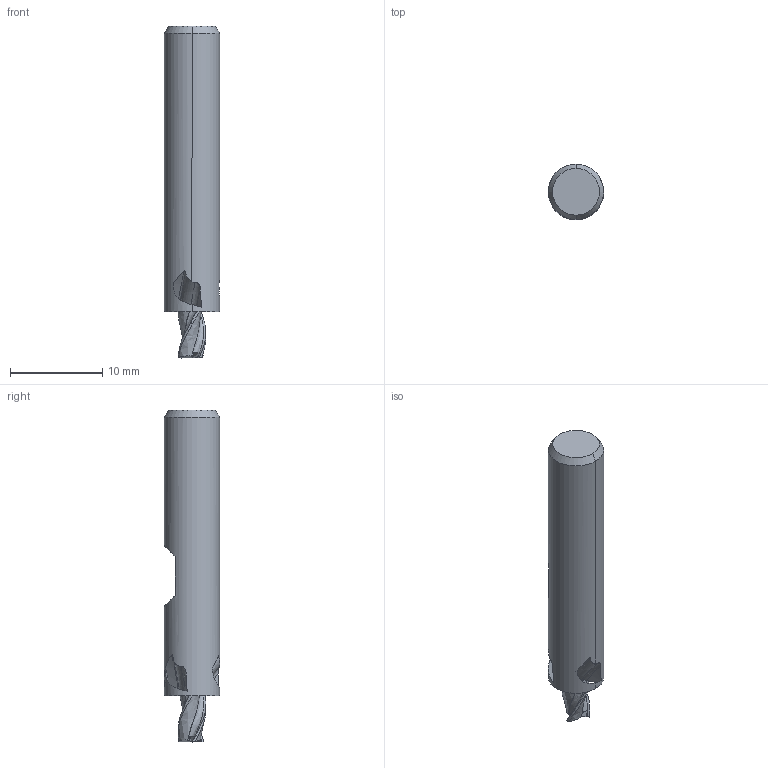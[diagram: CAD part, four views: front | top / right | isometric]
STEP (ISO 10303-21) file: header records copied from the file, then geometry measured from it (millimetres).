
FILE_DESCRIPTION(('no description'),'unknown implementation level');
FILE_NAME('solidZTu2cAvRqmuMfh9w73yPfdN8WtI_1.STP',' ',('CIMSOURCE GmbH'),('CADClick - KiM GmbH - www.kimweb.de'),'unknown preprocess','ACIS','unknown authorization');
FILE_SCHEMA(('automotive_design'));
Length unit declared in the file: millimetre
Products named in the file (2): NOCUT; CUT
Bounding box: 6 x 6 x 36 mm (x, y, z)
Volume: 834.7 mm3; surface area: 722.6 mm2
Topology: 2 solids, 2 shells, 76 faces, 220 edges, 147 vertices
Faces by surface type: plane 26, revolution 18, bspline 15, cylinder 10, cone 7
Entity records: 7722 total; most frequent: CARTESIAN_POINT 3422, STYLED_ITEM 445, PRESENTATION_STYLE_ASSIGNMENT 445, COLOUR_RGB 445, ORIENTED_EDGE 440, DIRECTION 281, EDGE_CURVE 220, CURVE_STYLE 220
